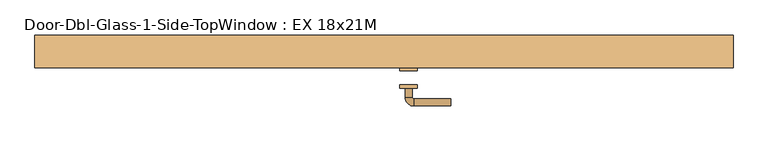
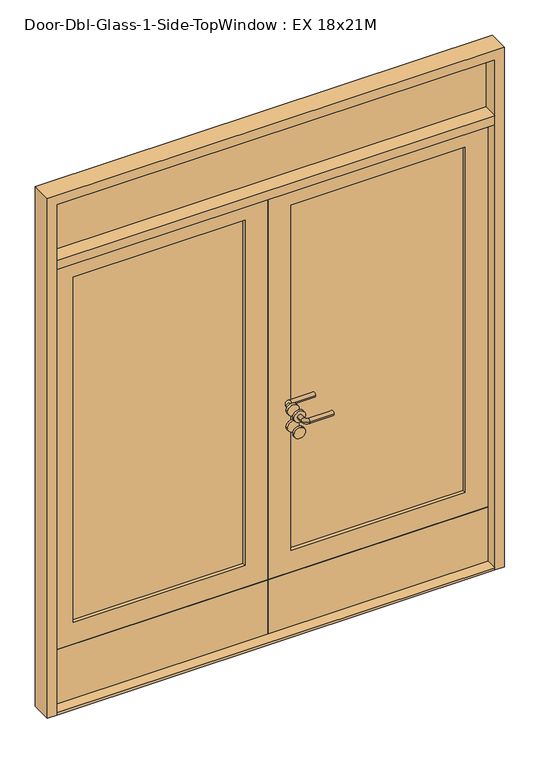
"""IFC4 building model written with IfcOpenShell, lengths in millimetres: door geometry, Door-Dbl-Glass-1-Side-TopWindow : EX 18x21M."""

from ifc_helpers import new_model, si_unit, point, frame, frame_2d, origin, origin_with_axes, place, context, project, spatial, polyline, circle_curve, ellipse_curve, trimmed, segment, composite_curve, outline, extrude, source, transform, mapped, element, save
from ifc_brep_helpers import plane_surface, cylinder_surface, revolved_surface, advanced_brep


def door_dbl_glass_1_side_topwindow_ex_18x21m_10d37795(model_context):
    return source(origin(), model_context, "Body", "SolidModel", [
        extrude(outline(polyline([(0.0, 948.0), (0.0, 990.0), (2390.0, 990.0), (2390.0, -1000.0), (0.0, -1000.0), (0.0, -958.0), (2348.0, -958.0), (2348.0, 948.0), (0.0, 948.0)])), frame((0.0, 84.0, 0.0), z_axis=(0.0, 1.0, 0.0), x_axis=(0.0, 0.0, 1.0)), (0.0, 0.0, 1.0), 92.0),
        extrude(outline(polyline([(2048.0, -10.0), (2048.0, -958.0), (10.0, -958.0), (10.0, -10.0), (2048.0, -10.0)]), holes=[polyline([(360.0, -858.0), (1948.0, -858.0), (1948.0, -110.0), (360.0, -110.0), (360.0, -858.0)])]), frame((0.0, 136.0, 0.0), z_axis=(0.0, 1.0, 0.0), x_axis=(0.0, 0.0, 1.0)), (0.0, 0.0, 1.0), 40.0),
        extrude(outline(polyline([(10.0, 948.0), (2048.0, 948.0), (2048.0, -10.0), (10.0, -10.0), (10.0, 948.0)]), holes=[polyline([(1948.0, 90.0), (1948.0, 848.0), (360.0, 848.0), (360.0, 90.0), (1948.0, 90.0)])]), frame((0.0, 136.0, 0.0), z_axis=(0.0, 1.0, 0.0), x_axis=(0.0, 0.0, 1.0)), (0.0, 0.0, 1.0), 40.0),
        extrude(outline(polyline([(-10.0, 177.0), (-10.0, 176.0), (-958.0, 176.0), (-958.0, 177.0), (-10.0, 177.0)])), frame((0.0, 0.0, 10.0), z_axis=(0.0, 0.0, 1.0), x_axis=(1.0, 0.0, 0.0)), (0.0, 0.0, 1.0), 250.0),
        extrude(outline(polyline([(-10.0, 136.0), (-10.0, 135.0), (-958.0, 135.0), (-958.0, 136.0), (-10.0, 136.0)])), frame((0.0, 0.0, 10.0), z_axis=(0.0, 0.0, 1.0), x_axis=(1.0, 0.0, 0.0)), (0.0, 0.0, 1.0), 250.0),
        extrude(outline(polyline([(948.0, 177.0), (948.0, 176.0), (-10.0, 176.0), (-10.0, 177.0), (948.0, 177.0)])), frame((0.0, 0.0, 10.0), z_axis=(0.0, 0.0, 1.0), x_axis=(1.0, 0.0, 0.0)), (0.0, 0.0, 1.0), 250.0),
        extrude(outline(polyline([(948.0, 136.0), (948.0, 135.0), (-10.0, 135.0), (-10.0, 136.0), (948.0, 136.0)])), frame((0.0, 0.0, 10.0), z_axis=(0.0, 0.0, 1.0), x_axis=(1.0, 0.0, 0.0)), (0.0, 0.0, 1.0), 250.0),
        extrude(outline(polyline([(-858.0, 161.0), (-110.0, 161.0), (-110.0, 151.0), (-858.0, 151.0), (-858.0, 161.0)])), frame((0.0, 0.0, 360.0), z_axis=(0.0, 0.0, 1.0), x_axis=(1.0, 0.0, 0.0)), (0.0, 0.0, 1.0), 1588.0),
        extrude(outline(polyline([(90.0, 161.0), (848.0, 161.0), (848.0, 151.0), (90.0, 151.0), (90.0, 161.0)])), frame((0.0, 0.0, 360.0), z_axis=(0.0, 0.0, 1.0), x_axis=(1.0, 0.0, 0.0)), (0.0, 0.0, 1.0), 1588.0),
        extrude(outline(polyline([(0.0, 948.0), (0.0, 990.0), (2390.0, 990.0), (2390.0, -1000.0), (0.0, -1000.0), (0.0, -958.0), (2048.0, -958.0), (2048.0, 948.0), (0.0, 948.0)]), holes=[polyline([(2090.0, -958.0), (2348.0, -958.0), (2348.0, 948.0), (2090.0, 948.0), (2090.0, -958.0)])]), frame((0.0, 84.0, 0.0), z_axis=(0.0, 1.0, 0.0), x_axis=(0.0, 0.0, 1.0)), (0.0, 0.0, 1.0), 92.0),
        extrude(outline(polyline([(-958.0, 161.0), (948.0, 161.0), (948.0, 151.0), (-958.0, 151.0), (-958.0, 161.0)])), frame((0.0, 0.0, 2090.0), z_axis=(0.0, 0.0, 1.0), x_axis=(1.0, 0.0, 0.0)), (0.0, 0.0, 1.0), 258.0),
        extrude(outline(composite_curve([segment(trimmed(circle_curve(frame_2d((1050.0001042, 65.0)), 25.0), [point((1050.0001042, 40.0))], [point((1050.0001042, 90.0))], False, "CARTESIAN"), True, "CONTINUOUS"), segment(trimmed(circle_curve(frame_2d((1050.0001042, 65.0)), 25.0), [point((1050.0001042, 90.0))], [point((1050.0001042, 40.0))], False, "CARTESIAN"), True, "CONTINUOUS")], self_intersect=False)), frame((0.0, 75.0, 0.0), z_axis=(0.0, 1.0, 0.0), x_axis=(0.0, 0.0, 1.0)), (0.0, 0.0, 1.0), 10.0),
        extrude(outline(composite_curve([segment(trimmed(circle_curve(frame_2d((975.0001042, 65.0)), 25.0), [point((975.0001042, 40.0))], [point((975.0001042, 90.0))], False, "CARTESIAN"), True, "CONTINUOUS"), segment(trimmed(circle_curve(frame_2d((975.0001042, 65.0)), 25.0), [point((975.0001042, 90.0))], [point((975.0001042, 40.0))], False, "CARTESIAN"), True, "CONTINUOUS")], self_intersect=False)), frame((0.0, 75.0, 0.0), z_axis=(0.0, 1.0, 0.0), x_axis=(0.0, 0.0, 1.0)), (0.0, 0.0, 1.0), 10.0),
        advanced_brep(
        [(54.875, 25.0, 1050.0), (74.875, 25.0, 1050.0), (74.875, 0.0, 1050.0), (54.875, 0.0, 1050.0), (79.875, -25.0, 1050.0), (79.875, -5.0, 1050.0), (184.875, -25.0, 1050.0), (184.875, -5.0, 1050.0)],
        [
            (0, 1, circle_curve(frame((64.875, 25.0, 1050.0), z_axis=(0.0, 1.0, 0.0), x_axis=(1.0, 0.0, 0.0)), 10.0)),
            (1, 0, circle_curve(frame((64.875, 25.0, 1050.0), z_axis=(0.0, 1.0, 0.0), x_axis=(1.0, 0.0, 0.0)), 10.0)),
            (1, 2),
            (2, 3, circle_curve(frame((64.875, 0.0, 1050.0), z_axis=(0.0, 1.0, 0.0), x_axis=(1.0, 0.0, 0.0)), 10.0)),
            (3, 0),
            (3, 2, circle_curve(frame((64.875, 0.0, 1050.0), z_axis=(0.0, 1.0, 0.0), x_axis=(1.0, 0.0, 0.0)), 10.0)),
            (4, 3, circle_curve(frame((79.875, 0.0, 1050.0), z_axis=(0.0, 0.0, -1.0), x_axis=(-1.0, 0.0, 0.0)), 25.0)),
            (2, 5, circle_curve(frame((79.875, 0.0, 1050.0), z_axis=(0.0, 0.0, 1.0), x_axis=(-1.0, 0.0, 0.0)), 5.0)),
            (5, 4, circle_curve(frame((79.875, -15.0, 1050.0), z_axis=(-1.0, 0.0, 0.0), x_axis=(0.0, 1.0, 0.0)), 10.0)),
            (4, 5, circle_curve(frame((79.875, -15.0, 1050.0), z_axis=(-1.0, 0.0, 0.0), x_axis=(0.0, 1.0, 0.0)), 10.0)),
            (6, 7, circle_curve(frame((184.875, -15.0, 1050.0), z_axis=(1.0, 0.0, 0.0), x_axis=(0.0, 1.0, 0.0)), 10.0)),
            (7, 6, circle_curve(frame((184.875, -15.0, 1050.0), z_axis=(1.0, 0.0, 0.0), x_axis=(0.0, 1.0, 0.0)), 10.0)),
            (5, 7),
            (6, 4),
        ],
        [
            plane_surface(frame((64.875, 25.0, 0.0), z_axis=(0.0, 1.0, 0.0), x_axis=(0.0, 0.0, 1.0))),
            cylinder_surface(frame((64.875, 25.0, 1050.0), z_axis=(0.0, 1.0, 0.0), x_axis=(1.0, 0.0, 0.0)), 10.0),
            revolved_surface(trimmed(ellipse_curve(frame((64.875, 0.0, 1050.0), z_axis=(0.0, 1.0, 0.0), x_axis=(1.0, 0.0, 0.0)), 10.0, 10.0), [point((74.875, 0.0, 1050.0))], [point((54.875, 0.0, 1050.0))], True, "CARTESIAN"), (79.875, 0.0, 0.0), (0.0, 0.0, 1.0)),
            revolved_surface(trimmed(ellipse_curve(frame((64.875, 0.0, 1050.0), z_axis=(0.0, 1.0, 0.0), x_axis=(1.0, 0.0, 0.0)), 10.0, 10.0), [point((54.875, 0.0, 1050.0))], [point((74.875, 0.0, 1050.0))], True, "CARTESIAN"), (79.875, 0.0, 0.0), (0.0, 0.0, 1.0)),
            plane_surface(frame((184.875, -15.0, 0.0), z_axis=(1.0, 0.0, 0.0), x_axis=(0.0, 0.0, 1.0))),
            cylinder_surface(frame((79.875, -15.0, 1050.0), z_axis=(-1.0, 0.0, 0.0), x_axis=(0.0, 1.0, 0.0)), 10.0),
        ],
        [
            (0, [[1, 2]]),
            (1, [[-2, 3, 4, 5]]),
            (1, [[-1, -5, 6, -3]]),
            (2, [[7, -4, 8, 9]]),
            (3, [[-8, -6, -7, 10]]),
            (4, [[11, 12]]),
            (5, [[-9, 13, -11, 14]]),
            (5, [[-10, -14, -12, -13]]),
        ],
    ),
        advanced_brep(
        [(74.875, 85.0, 1050.0), (54.875, 85.0, 1050.0), (74.875, 110.0, 1050.0), (54.875, 110.0, 1050.0), (79.875, 135.0, 1050.0), (79.875, 115.0, 1050.0), (184.875, 115.0, 1050.0), (184.875, 135.0, 1050.0)],
        [
            (0, 1, circle_curve(frame((64.875, 85.0, 1050.0), z_axis=(0.0, -1.0, 0.0), x_axis=(-1.0, 0.0, 0.0)), 10.0)),
            (1, 0, circle_curve(frame((64.875, 85.0, 1050.0), z_axis=(0.0, -1.0, 0.0), x_axis=(-1.0, 0.0, 0.0)), 10.0)),
            (0, 2),
            (2, 3, circle_curve(frame((64.875, 110.0, 1050.0), z_axis=(0.0, -1.0, 0.0), x_axis=(-1.0, 0.0, 0.0)), 10.0)),
            (3, 1),
            (3, 2, circle_curve(frame((64.875, 110.0, 1050.0), z_axis=(0.0, -1.0, 0.0), x_axis=(-1.0, 0.0, 0.0)), 10.0)),
            (4, 3, circle_curve(frame((79.875, 110.0, 1050.0), z_axis=(0.0, 0.0, 1.0), x_axis=(-1.0, 0.0, 0.0)), 25.0)),
            (2, 5, circle_curve(frame((79.875, 110.0, 1050.0), z_axis=(0.0, 0.0, -1.0), x_axis=(-1.0, 0.0, 0.0)), 5.0)),
            (5, 4, circle_curve(frame((79.875, 125.0, 1050.0), z_axis=(-1.0, 0.0, 0.0), x_axis=(0.0, 1.0, 0.0)), 10.0)),
            (4, 5, circle_curve(frame((79.875, 125.0, 1050.0), z_axis=(-1.0, 0.0, 0.0), x_axis=(0.0, 1.0, 0.0)), 10.0)),
            (6, 7, circle_curve(frame((184.875, 125.0, 1050.0), z_axis=(1.0, 0.0, 0.0), x_axis=(0.0, 1.0, 0.0)), 10.0)),
            (7, 6, circle_curve(frame((184.875, 125.0, 1050.0), z_axis=(1.0, 0.0, 0.0), x_axis=(0.0, 1.0, 0.0)), 10.0)),
            (5, 6),
            (7, 4),
        ],
        [
            plane_surface(frame((64.875, 85.0, 0.0), z_axis=(0.0, -1.0, 0.0), x_axis=(0.0, 0.0, 1.0))),
            cylinder_surface(frame((64.875, 85.0, 1050.0), z_axis=(0.0, -1.0, 0.0), x_axis=(-1.0, 0.0, 0.0)), 10.0),
            revolved_surface(trimmed(ellipse_curve(frame((64.875, 110.0, 1050.0), z_axis=(0.0, -1.0, 0.0), x_axis=(-1.0, 0.0, 0.0)), 10.0, 10.0), [point((74.875, 110.0, 1050.0))], [point((54.875, 110.0, 1050.0))], True, "CARTESIAN"), (79.875, 110.0, 0.0), (0.0, 0.0, -1.0)),
            revolved_surface(trimmed(ellipse_curve(frame((64.875, 110.0, 1050.0), z_axis=(0.0, -1.0, 0.0), x_axis=(-1.0, 0.0, 0.0)), 10.0, 10.0), [point((54.875, 110.0, 1050.0))], [point((74.875, 110.0, 1050.0))], True, "CARTESIAN"), (79.875, 110.0, 0.0), (0.0, 0.0, -1.0)),
            plane_surface(frame((184.875, 125.0, 0.0), z_axis=(1.0, 0.0, 0.0), x_axis=(0.0, 0.0, 1.0))),
            cylinder_surface(frame((79.875, 125.0, 1050.0), z_axis=(-1.0, 0.0, 0.0), x_axis=(0.0, 1.0, 0.0)), 10.0),
        ],
        [
            (0, [[1, 2]]),
            (1, [[-1, 3, 4, 5]]),
            (1, [[-2, -5, 6, -3]]),
            (2, [[7, -4, 8, 9]]),
            (3, [[-8, -6, -7, 10]]),
            (4, [[11, 12]]),
            (5, [[-9, 13, -12, 14]]),
            (5, [[-10, -14, -11, -13]]),
        ],
    ),
        extrude(outline(composite_curve([segment(trimmed(circle_curve(frame_2d((1050.0001042, 65.0)), 25.0), [point((1050.0001042, 90.0))], [point((1050.0001042, 40.0))], False, "CARTESIAN"), True, "CONTINUOUS"), segment(trimmed(circle_curve(frame_2d((1050.0001042, 65.0)), 25.0), [point((1050.0001042, 40.0))], [point((1050.0001042, 90.0))], False, "CARTESIAN"), True, "CONTINUOUS")], self_intersect=False)), frame((0.0, 25.0, 0.0), z_axis=(0.0, 1.0, 0.0), x_axis=(0.0, 0.0, 1.0)), (0.0, 0.0, 1.0), 10.0),
        extrude(outline(composite_curve([segment(trimmed(circle_curve(frame_2d((975.0001042, 65.0)), 25.0), [point((975.0001042, 90.0))], [point((975.0001042, 40.0))], False, "CARTESIAN"), True, "CONTINUOUS"), segment(trimmed(circle_curve(frame_2d((975.0001042, 65.0)), 25.0), [point((975.0001042, 40.0))], [point((975.0001042, 90.0))], False, "CARTESIAN"), True, "CONTINUOUS")], self_intersect=False)), frame((0.0, 25.0, 0.0), z_axis=(0.0, 1.0, 0.0), x_axis=(0.0, 0.0, 1.0)), (0.0, 0.0, 1.0), 10.0),
        extrude(outline(polyline([(948.0, 84.0), (-958.0, 84.0), (-958.0, 176.0), (948.0, 176.0), (948.0, 84.0)])), origin_with_axes(), (0.0, 0.0, 1.0), 10.0),
    ])


if __name__ == "__main__":
    model = new_model("IFC4")
    model_context = context("Model", 3, world=origin())
    ifc_project = project(units=[si_unit("LENGTHUNIT", "METRE", prefix="MILLI")], contexts=[model_context])
    site = spatial("IfcSite", under=ifc_project)
    building = spatial("IfcBuilding", under=site)
    placement = place(None, origin())
    door_dbl_glass_1_side_topwindow_ex_18x21m_shape = door_dbl_glass_1_side_topwindow_ex_18x21m_10d37795(model_context)
    element("IfcDoor", 1, ObjectType="Door-Dbl-Glass-1-Side-TopWindow : EX 18x21M", at=placement, inside=building, context=model_context, shape_type="MappedRepresentation", body=[
        mapped(door_dbl_glass_1_side_topwindow_ex_18x21m_shape, transform((0.0, 0.0, 0.0), x_axis=(1.0, 0.0, 0.0), y_axis=(0.0, 1.0, 0.0), z_axis=(0.0, 0.0, 1.0))),
    ])
    save(model, "model.ifc")
